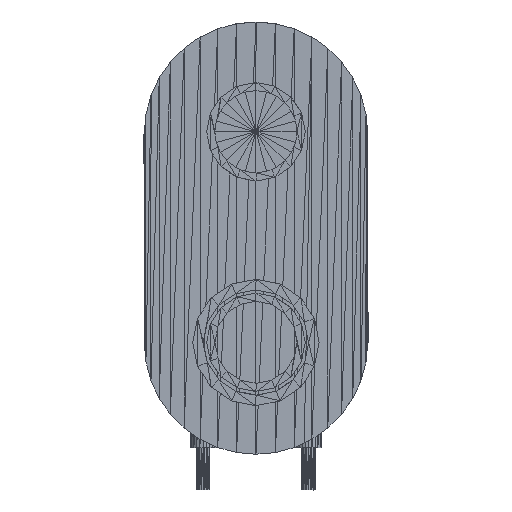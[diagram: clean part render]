
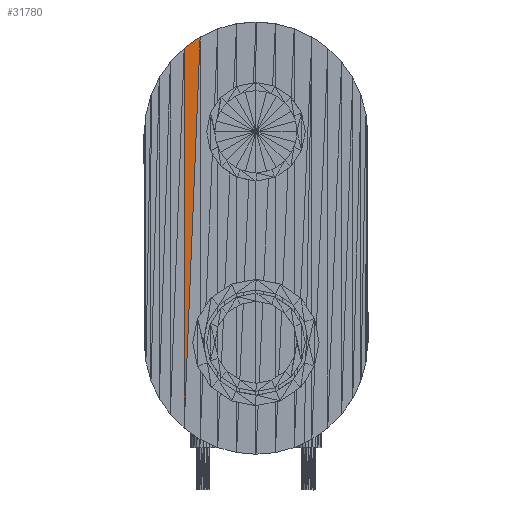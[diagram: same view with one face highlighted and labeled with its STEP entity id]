
A CAD part, front view. The second image highlights one B-rep face of the part: STEP entity #31780.
In plain terms, the highlighted planar face has unit normal (-0.002, -1, -0.001).
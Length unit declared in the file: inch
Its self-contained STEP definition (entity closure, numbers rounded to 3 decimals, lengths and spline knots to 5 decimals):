
#20985=CARTESIAN_POINT('',(-0.17016,-0.05006,0.94834));
#20986=VERTEX_POINT('',#20985);
#21024=CARTESIAN_POINT('',(-0.13231,-0.05016,0.97485));
#21025=VERTEX_POINT('',#21024);
#21026=CARTESIAN_POINT('',(-0.17016,-0.05026,0.94834));
#21027=DIRECTION('',(0.819,-0.002,0.574));
#21028=VECTOR('',#21027,0.04621);
#21029=LINE('',#21026,#21028);
#21030=EDGE_CURVE('',#20986,#21025,#21029,.T.);
#30869=CARTESIAN_POINT('',(-0.17034,-0.04923,0.0469));
#30870=VERTEX_POINT('',#30869);
#31756=CARTESIAN_POINT('',(-0.17034,-0.04943,0.0469));
#31757=DIRECTION('',(0.,-0.001,1.));
#31758=VECTOR('',#31757,0.90144);
#31759=LINE('',#31756,#31758);
#31760=EDGE_CURVE('',#30870,#20986,#31759,.T.);
#31765=CARTESIAN_POINT('',(-0.17021,-0.04987,0.9484));
#31766=DIRECTION('',(0.002,1.,0.001));
#31767=DIRECTION('',(1.,-0.002,0.));
#31768=AXIS2_PLACEMENT_3D('',#31765,#31766,#31767);
#31769=PLANE('',#31768);
#31770=ORIENTED_EDGE('',*,*,#31760,.F.);
#31771=CARTESIAN_POINT('',(-0.17034,-0.04943,0.0469));
#31772=DIRECTION('',(0.041,-0.001,0.999));
#31773=VECTOR('',#31772,0.92873);
#31774=LINE('',#31771,#31773);
#31775=EDGE_CURVE('',#30870,#21025,#31774,.T.);
#31776=ORIENTED_EDGE('',*,*,#31775,.T.);
#31777=ORIENTED_EDGE('',*,*,#21030,.F.);
#31778=EDGE_LOOP('',(#31770,#31776,#31777));
#31779=FACE_BOUND('',#31778,.T.);
#31780=ADVANCED_FACE('',(#31779),#31769,.F.);
